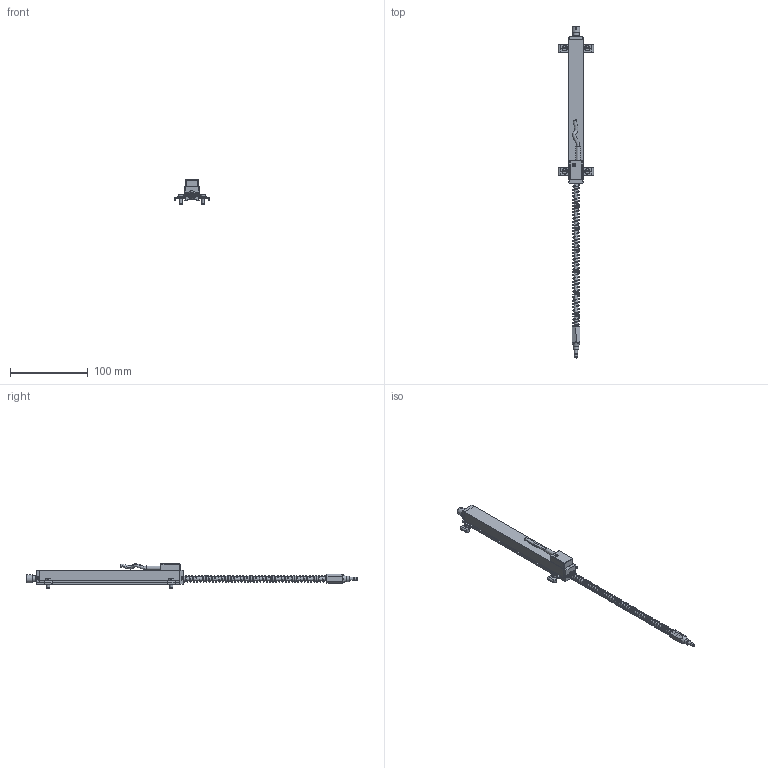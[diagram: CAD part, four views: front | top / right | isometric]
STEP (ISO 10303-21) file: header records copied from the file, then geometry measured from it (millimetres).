
FILE_DESCRIPTION( ( 'Unknown' ), '1' );
FILE_NAME( 'P:/Fertigung_TTS/2_TTS/1_CAD-Daten/4_Handelsware/3_Linearpotentiometer/LRW2_LRW3/4_Step/LRW2-F-150-S.stp', 'Unknown', ( 'WayCon' ), ( 'WayCon Positionsmesstechnik' ), 'PSStep 17.0.49', 'Unknown', ' ' );
FILE_SCHEMA( ( 'AUTOMOTIVE_DESIGN { 1 0 10303 214 1 1 1 1 }' ) );
Length unit declared in the file: millimetre
Products named in the file (42): BUS023X; Molla PY compressa MIM401X_Posizione Lavoro; MIM600X; MIM892X_ISO 1207 - M4 x 10 --- 10S; TES053X; BUS015X; TES045X; PRE040X; BUS022X; TAS000X_Assemblato; MIM797X_ISO 7046-1 - M2 x 10 - Z --- 10S; MIM828X_ISO 7045 - M2.5 x 8 - Z --- 8S; STA029X; MIM510X_DIN 6905-3.6-FSt; PAS000X; PMI-SLIM cavoX; CUS046X; 1; PUN001X
Bounding box: 45 x 425.99 x 31.7 mm (x, y, z)
Volume: 1651.2 mm3; surface area: 34023.1 mm2
Topology: 18 solids, 388 shells, 504 faces, 2081 edges, 1945 vertices
Faces by surface type: plane 304, cylinder 98, cone 64, torus 20, bspline 9, sphere 9
Full cylindrical faces by diameter (mm): 2.5 x2, 3.2 x1, 3.8 x3, 4 x10, 4.2 x1, 4.3 x4, 5 x5, 5.1 x7, 6.3 x13, 7 x2, 7.8 x7, 8 x1, 8.5 x1, 10 x1
Entity records: 32947 total; most frequent: CARTESIAN_POINT 12595, DIRECTION 3525, ORIENTED_EDGE 2070, EDGE_CURVE 1904, VERTEX_POINT 1887, AXIS2_PLACEMENT_3D 1298, LINE 929, VECTOR 929
